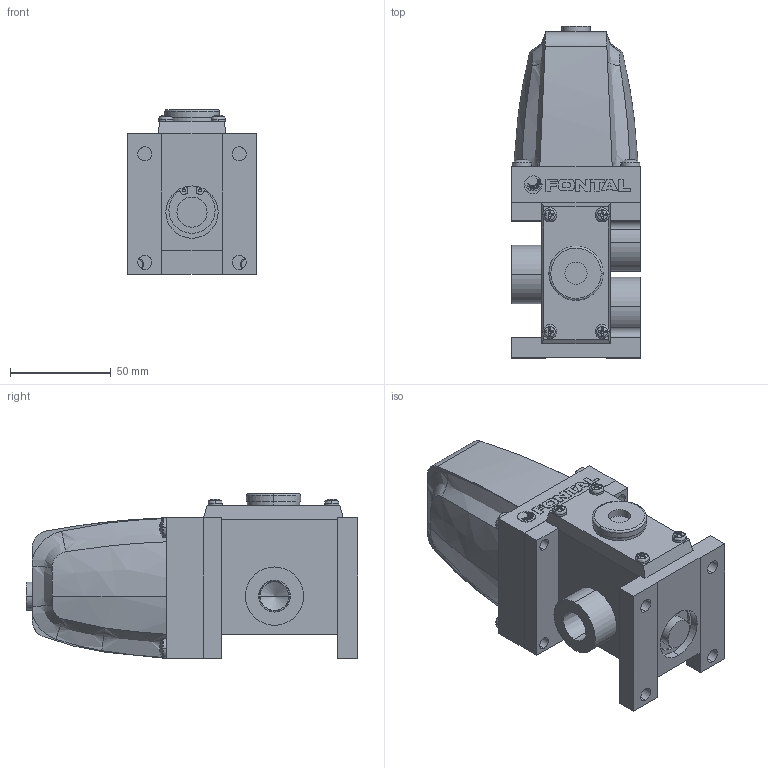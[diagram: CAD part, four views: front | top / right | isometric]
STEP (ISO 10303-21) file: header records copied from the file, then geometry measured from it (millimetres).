
FILE_DESCRIPTION (( 'STEP AP203' ), '1' );
FILE_NAME ('AS2310-03-##.STEP', '2016-03-09T03:42:32', ( 'Sam Lin' ), ( '' ), 'SwSTEP 2.0', 'SolidWorks 2013', '' );
FILE_SCHEMA (( 'CONFIG_CONTROL_DESIGN' ));
Length unit declared in the file: metre
Products named in the file (10): AS2310-4; ISO 7045 - M4 x 8; ISO 7045 - M5 x 16; A10-MARK; PMS2308-5; PMS2308-6; AS2310-1; AS2310-03-##; AS2310-2; AS2310-3
Assembly tree (15 placements, depth 2):
  AS2310-03-##
    AS2310-1
    AS2310-2
    AS2310-3
    AS2310-4
    ISO 7045 - M4 x 8  x4
    ISO 7045 - M5 x 16  x4
    A10-MARK
    PMS2308-5
    PMS2308-6
Bounding box: 64 x 165 x 82 mm (x, y, z)
Volume: 501826 mm3; surface area: 75922.8 mm2
Topology: 21 solids, 21 shells, 549 faces, 1395 edges, 887 vertices
Faces by surface type: plane 275, cylinder 140, bspline 74, cone 60
Entity records: 13503 total; most frequent: CARTESIAN_POINT 4042, ORIENTED_EDGE 1738, DIRECTION 1673, EDGE_CURVE 869, AXIS2_PLACEMENT_3D 609, VERTEX_POINT 569, LINE 455, VECTOR 455
